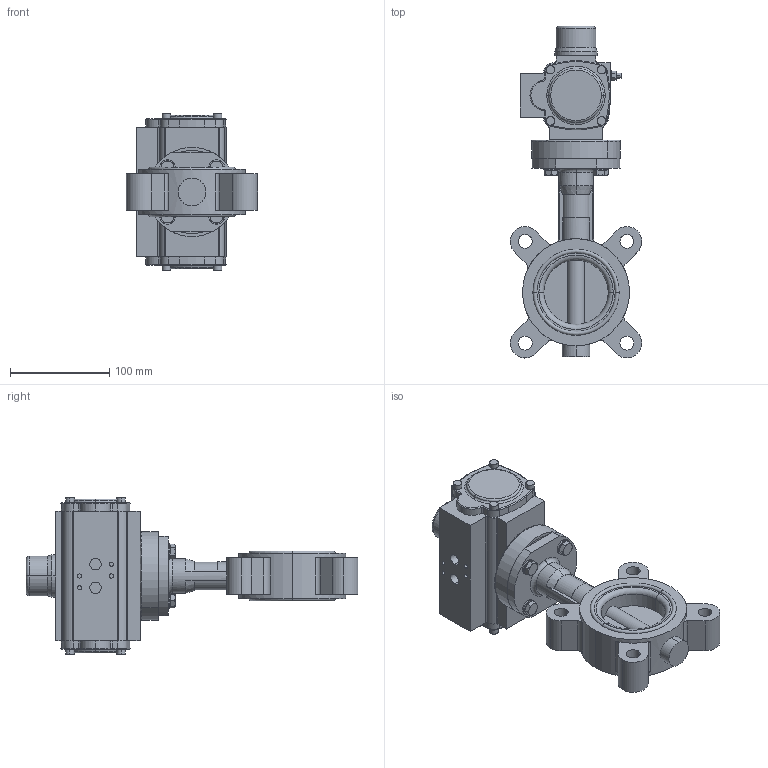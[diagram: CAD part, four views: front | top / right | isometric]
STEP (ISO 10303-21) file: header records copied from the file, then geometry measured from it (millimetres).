
FILE_DESCRIPTION (( 'STEP AP214' ), '1' );
FILE_NAME ('67706.step', '2020-10-26T07:27:29', ( '' ), ( '' ), 'SwSTEP 2.0', 'SolidWorks 2019', '' );
FILE_SCHEMA (( 'AUTOMOTIVE_DESIGN' ));
Length unit declared in the file: millimetre
Products named in the file (10): Zyl-Schr In-6kt DIN 912_M6x16; 6kt-Mu DIN 934_M8; 67706; 6kt-Schr DIN 933_M8x30; 67335_15x15x2 - L=18; U-Scheibe DIN 125 A_M8; TL20-0065_M01; Achtkantreduktion 14-11 mm; Flanschadapter F07-F05; DA0040-V14_01
Assembly tree (21 placements, depth 2):
  67706
    TL20-0065_M01
    Flanschadapter F07-F05
    Achtkantreduktion 14-11 mm
    DA0040-V14_01
    6kt-Schr DIN 933_M8x30  x4
    U-Scheibe DIN 125 A_M8  x4
    67335_15x15x2 - L=18
    6kt-Mu DIN 934_M8  x4
    Zyl-Schr In-6kt DIN 912_M6x16  x4
Bounding box: 132.47 x 334.74 x 157.9 mm (x, y, z)
Volume: 1566699.7 mm3; surface area: 206359.5 mm2
Topology: 22 solids, 22 shells, 945 faces, 2305 edges, 1455 vertices
Faces by surface type: plane 440, cylinder 327, cone 108, torus 58, bspline 12
Entity records: 25162 total; most frequent: CARTESIAN_POINT 5056, DIRECTION 3954, ORIENTED_EDGE 3574, EDGE_CURVE 1787, AXIS2_PLACEMENT_3D 1530, VERTEX_POINT 1152, LINE 894, VECTOR 894
